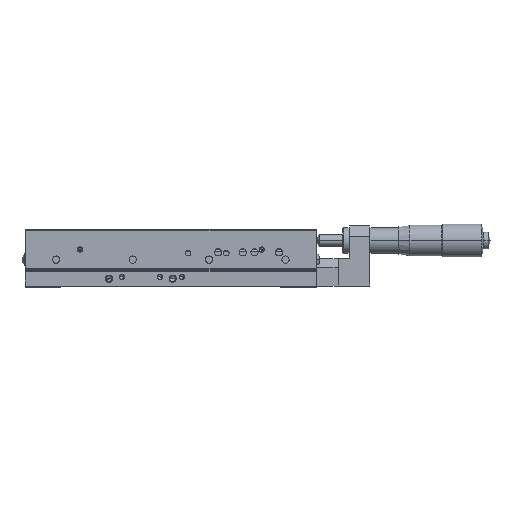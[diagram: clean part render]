
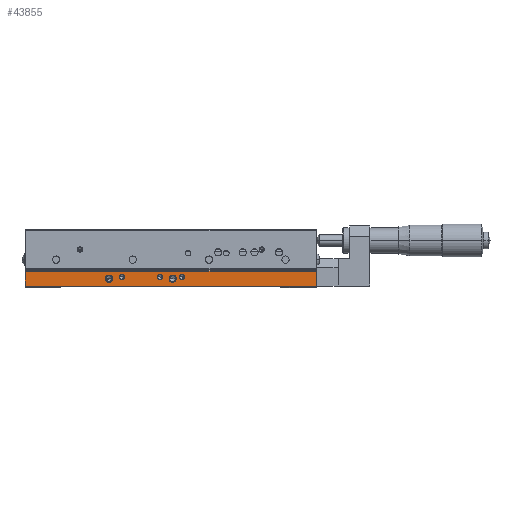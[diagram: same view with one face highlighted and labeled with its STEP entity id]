
A CAD part, left-side view. The second image highlights one B-rep face of the part: STEP entity #43855.
In plain terms, the highlighted planar face has unit normal (-1, 0, 0).
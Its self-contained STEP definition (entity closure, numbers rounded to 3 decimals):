
#3646 = CARTESIAN_POINT ( 'NONE',  ( -80., 7.5, 6. ) ) ;
#3687 = CARTESIAN_POINT ( 'NONE',  ( -80., 4.5, 6. ) ) ;
#3725 = DIRECTION ( 'NONE',  ( 0., -1., 0. ) ) ;
#3726 = DIRECTION ( 'NONE',  ( -1., 0., 0. ) ) ;
#3727 = CARTESIAN_POINT ( 'NONE',  ( -80., 6., 6. ) ) ;
#3728 = AXIS2_PLACEMENT_3D ( 'NONE', #3727, #3726, #3725 ) ;
#3729 = CIRCLE ( 'NONE', #3728, 1.5 ) ;
#9713 = CARTESIAN_POINT ( 'NONE',  ( -80., 25.5, 6. ) ) ;
#9714 = DIRECTION ( 'NONE',  ( 0., -1., 0. ) ) ;
#9715 = DIRECTION ( 'NONE',  ( -1., 0., 0. ) ) ;
#9716 = CARTESIAN_POINT ( 'NONE',  ( -80., 27., 6. ) ) ;
#9717 = AXIS2_PLACEMENT_3D ( 'NONE', #9716, #9715, #9714 ) ;
#9718 = CIRCLE ( 'NONE', #9717, 1.5 ) ;
#9754 = CARTESIAN_POINT ( 'NONE',  ( -80., -7.5, 6. ) ) ;
#18257 = EDGE_CURVE ( 'NONE', #18308, #18259, #38965, .T. ) ;
#18259 = VERTEX_POINT ( 'NONE', #39148 ) ;
#18308 = VERTEX_POINT ( 'NONE', #38943 ) ;
#18371 = VERTEX_POINT ( 'NONE', #39139 ) ;
#18374 = EDGE_CURVE ( 'NONE', #18371, #18376, #39138, .T. ) ;
#18376 = VERTEX_POINT ( 'NONE', #39133 ) ;
#18417 = VERTEX_POINT ( 'NONE', #39084 ) ;
#18432 = VERTEX_POINT ( 'NONE', #39113 ) ;
#18434 = EDGE_CURVE ( 'NONE', #18432, #18520, #39132, .T. ) ;
#18520 = VERTEX_POINT ( 'NONE', #9754 ) ;
#18541 = EDGE_CURVE ( 'NONE', #18417, #18544, #9718, .T. ) ;
#18544 = VERTEX_POINT ( 'NONE', #9713 ) ;
#19073 = VERTEX_POINT ( 'NONE', #3646 ) ;
#19129 = EDGE_CURVE ( 'NONE', #19073, #19226, #3729, .T. ) ;
#19226 = VERTEX_POINT ( 'NONE', #3687 ) ;
#19841 = CARTESIAN_POINT ( 'NONE',  ( -80., -6., 6. ) ) ;
#19842 = AXIS2_PLACEMENT_3D ( 'NONE', #19841, #19877, #19876 ) ;
#19843 = CARTESIAN_POINT ( 'NONE',  ( -80., 6., 6. ) ) ;
#19844 = AXIS2_PLACEMENT_3D ( 'NONE', #19843, #20085, #20084 ) ;
#19845 = CIRCLE ( 'NONE', #19844, 1.5 ) ;
#19876 = DIRECTION ( 'NONE',  ( 0., -1., 0. ) ) ;
#19877 = DIRECTION ( 'NONE',  ( -1., 0., 0. ) ) ;
#20013 = CIRCLE ( 'NONE', #19842, 1.5 ) ;
#20084 = DIRECTION ( 'NONE',  ( 0., -1., 0. ) ) ;
#20085 = DIRECTION ( 'NONE',  ( -1., 0., 0. ) ) ;
#20624 = DIRECTION ( 'NONE',  ( 0., -1., 0. ) ) ;
#20625 = DIRECTION ( 'NONE',  ( -1., 0., 0. ) ) ;
#20626 = CARTESIAN_POINT ( 'NONE',  ( -80., 34., 5. ) ) ;
#20627 = AXIS2_PLACEMENT_3D ( 'NONE', #20626, #20625, #20624 ) ;
#20628 = CIRCLE ( 'NONE', #20627, 2. ) ;
#20703 = DIRECTION ( 'NONE',  ( 0., -1., 0. ) ) ;
#20704 = VECTOR ( 'NONE', #20703, 1000. ) ;
#20705 = CARTESIAN_POINT ( 'NONE',  ( -80., 80., 0.8 ) ) ;
#20706 = LINE ( 'NONE', #20705, #20704 ) ;
#20708 = CARTESIAN_POINT ( 'NONE',  ( -80., 80., 0.8 ) ) ;
#20709 = DIRECTION ( 'NONE',  ( 0., 0., -1. ) ) ;
#20710 = VECTOR ( 'NONE', #20709, 1000. ) ;
#20711 = CARTESIAN_POINT ( 'NONE',  ( -80., 80., 9. ) ) ;
#20712 = LINE ( 'NONE', #20711, #20710 ) ;
#20713 = DIRECTION ( 'NONE',  ( 0., -1., 0. ) ) ;
#20714 = DIRECTION ( 'NONE',  ( -1., 0., 0. ) ) ;
#20715 = AXIS2_PLACEMENT_3D ( 'NONE', #20720, #20714, #20713 ) ;
#20716 = CIRCLE ( 'NONE', #20715, 1.5 ) ;
#20720 = CARTESIAN_POINT ( 'NONE',  ( -80., 27., 6. ) ) ;
#20768 = DIRECTION ( 'NONE',  ( 0., -1., 0. ) ) ;
#20769 = DIRECTION ( 'NONE',  ( -1., 0., 0. ) ) ;
#20770 = AXIS2_PLACEMENT_3D ( 'NONE', #20777, #20769, #20768 ) ;
#20771 = CIRCLE ( 'NONE', #20770, 2. ) ;
#20772 = DIRECTION ( 'NONE',  ( 0., -1., 0. ) ) ;
#20773 = DIRECTION ( 'NONE',  ( -1., 0., 0. ) ) ;
#20774 = CARTESIAN_POINT ( 'NONE',  ( -80., 80., 9. ) ) ;
#20775 = AXIS2_PLACEMENT_3D ( 'NONE', #20774, #20773, #20772 ) ;
#20776 = PLANE ( 'NONE',  #20775 ) ;
#20777 = CARTESIAN_POINT ( 'NONE',  ( -80., -1., 5. ) ) ;
#20778 = FACE_OUTER_BOUND ( 'NONE', #43926, .T. ) ;
#20779 = FACE_BOUND ( 'NONE', #44061, .T. ) ;
#20780 = FACE_BOUND ( 'NONE', #44054, .T. ) ;
#20781 = FACE_BOUND ( 'NONE', #44050, .T. ) ;
#20782 = FACE_BOUND ( 'NONE', #43864, .T. ) ;
#20783 = FACE_BOUND ( 'NONE', #43857, .T. ) ;
#20784 = DIRECTION ( 'NONE',  ( 0., -1., 0. ) ) ;
#20785 = VECTOR ( 'NONE', #20784, 1000. ) ;
#20786 = CARTESIAN_POINT ( 'NONE',  ( -80., 80., 9. ) ) ;
#20787 = LINE ( 'NONE', #20786, #20785 ) ;
#20792 = CARTESIAN_POINT ( 'NONE',  ( -80., 80., 9. ) ) ;
#28995 = DIRECTION ( 'NONE',  ( 0., 0., -1. ) ) ;
#28996 = VECTOR ( 'NONE', #28995, 1000. ) ;
#28997 = CARTESIAN_POINT ( 'NONE',  ( -80., -80., 9. ) ) ;
#28998 = LINE ( 'NONE', #28997, #28996 ) ;
#29156 = CARTESIAN_POINT ( 'NONE',  ( -80., -80., 0.8 ) ) ;
#29157 = CARTESIAN_POINT ( 'NONE',  ( -80., -80., 9. ) ) ;
#38943 = CARTESIAN_POINT ( 'NONE',  ( -80., 36., 5. ) ) ;
#38965 = CIRCLE ( 'NONE', #39152, 2. ) ;
#39084 = CARTESIAN_POINT ( 'NONE',  ( -80., 28.5, 6. ) ) ;
#39113 = CARTESIAN_POINT ( 'NONE',  ( -80., -4.5, 6. ) ) ;
#39128 = DIRECTION ( 'NONE',  ( 0., -1., 0. ) ) ;
#39129 = DIRECTION ( 'NONE',  ( -1., 0., 0. ) ) ;
#39130 = CARTESIAN_POINT ( 'NONE',  ( -80., -6., 6. ) ) ;
#39131 = AXIS2_PLACEMENT_3D ( 'NONE', #39130, #39129, #39128 ) ;
#39132 = CIRCLE ( 'NONE', #39131, 1.5 ) ;
#39133 = CARTESIAN_POINT ( 'NONE',  ( -80., -3., 5. ) ) ;
#39134 = DIRECTION ( 'NONE',  ( 0., -1., 0. ) ) ;
#39135 = DIRECTION ( 'NONE',  ( -1., 0., 0. ) ) ;
#39136 = CARTESIAN_POINT ( 'NONE',  ( -80., -1., 5. ) ) ;
#39137 = AXIS2_PLACEMENT_3D ( 'NONE', #39136, #39135, #39134 ) ;
#39138 = CIRCLE ( 'NONE', #39137, 2. ) ;
#39139 = CARTESIAN_POINT ( 'NONE',  ( -80., 1., 5. ) ) ;
#39148 = CARTESIAN_POINT ( 'NONE',  ( -80., 32., 5. ) ) ;
#39149 = DIRECTION ( 'NONE',  ( 0., -1., 0. ) ) ;
#39150 = DIRECTION ( 'NONE',  ( -1., 0., 0. ) ) ;
#39151 = CARTESIAN_POINT ( 'NONE',  ( -80., 34., 5. ) ) ;
#39152 = AXIS2_PLACEMENT_3D ( 'NONE', #39151, #39150, #39149 ) ;
#43849 = VERTEX_POINT ( 'NONE', #20792 ) ;
#43853 = EDGE_CURVE ( 'NONE', #43849, #50473, #20787, .T. ) ;
#43855 = ADVANCED_FACE ( 'NONE', ( #20783, #20782, #20781, #20780, #20779, #20778 ), #20776, .T. ) ;
#43857 = EDGE_LOOP ( 'NONE', ( #43858, #43862 ) ) ;
#43858 = ORIENTED_EDGE ( 'NONE', *, *, #43860, .F. ) ;
#43860 = EDGE_CURVE ( 'NONE', #18376, #18371, #20771, .T. ) ;
#43862 = ORIENTED_EDGE ( 'NONE', *, *, #18374, .F. ) ;
#43864 = EDGE_LOOP ( 'NONE', ( #44045, #44048 ) ) ;
#43921 = ORIENTED_EDGE ( 'NONE', *, *, #43923, .F. ) ;
#43923 = EDGE_CURVE ( 'NONE', #18544, #18417, #20716, .T. ) ;
#43925 = ORIENTED_EDGE ( 'NONE', *, *, #18541, .F. ) ;
#43926 = EDGE_LOOP ( 'NONE', ( #43928, #43931, #43933, #43936 ) ) ;
#43928 = ORIENTED_EDGE ( 'NONE', *, *, #50504, .F. ) ;
#43931 = ORIENTED_EDGE ( 'NONE', *, *, #43853, .F. ) ;
#43933 = ORIENTED_EDGE ( 'NONE', *, *, #43934, .T. ) ;
#43934 = EDGE_CURVE ( 'NONE', #43849, #43935, #20712, .T. ) ;
#43935 = VERTEX_POINT ( 'NONE', #20708 ) ;
#43936 = ORIENTED_EDGE ( 'NONE', *, *, #43943, .T. ) ;
#43943 = EDGE_CURVE ( 'NONE', #43935, #50475, #20706, .T. ) ;
#44045 = ORIENTED_EDGE ( 'NONE', *, *, #44046, .F. ) ;
#44046 = EDGE_CURVE ( 'NONE', #18259, #18308, #20628, .T. ) ;
#44048 = ORIENTED_EDGE ( 'NONE', *, *, #18257, .F. ) ;
#44050 = EDGE_LOOP ( 'NONE', ( #44051, #44053 ) ) ;
#44051 = ORIENTED_EDGE ( 'NONE', *, *, #44052, .F. ) ;
#44052 = EDGE_CURVE ( 'NONE', #18520, #18432, #20013, .T. ) ;
#44053 = ORIENTED_EDGE ( 'NONE', *, *, #18434, .F. ) ;
#44054 = EDGE_LOOP ( 'NONE', ( #44055, #44058 ) ) ;
#44055 = ORIENTED_EDGE ( 'NONE', *, *, #44056, .F. ) ;
#44056 = EDGE_CURVE ( 'NONE', #19226, #19073, #19845, .T. ) ;
#44058 = ORIENTED_EDGE ( 'NONE', *, *, #19129, .F. ) ;
#44061 = EDGE_LOOP ( 'NONE', ( #43921, #43925 ) ) ;
#50473 = VERTEX_POINT ( 'NONE', #29157 ) ;
#50475 = VERTEX_POINT ( 'NONE', #29156 ) ;
#50504 = EDGE_CURVE ( 'NONE', #50473, #50475, #28998, .T. ) ;
